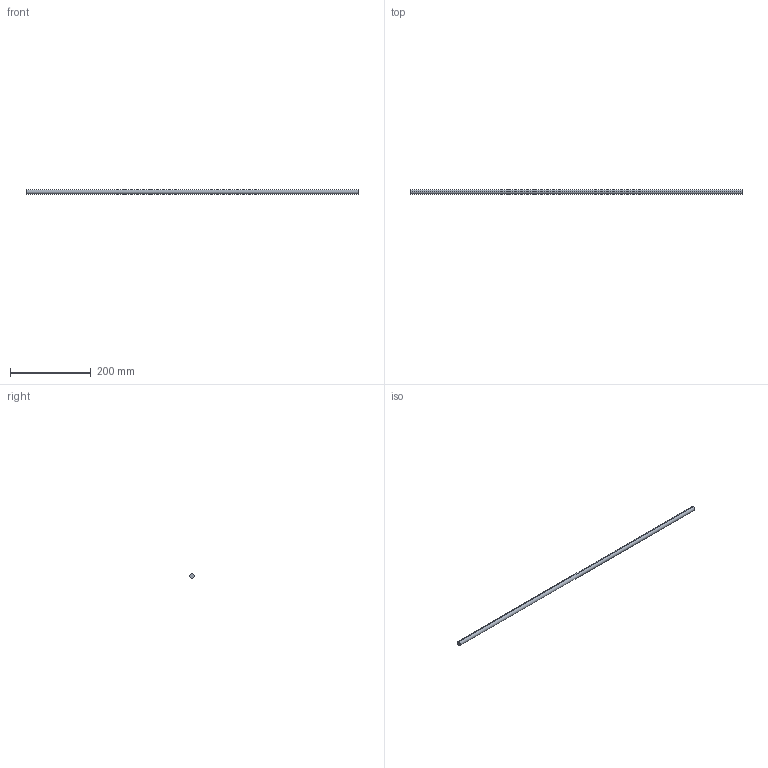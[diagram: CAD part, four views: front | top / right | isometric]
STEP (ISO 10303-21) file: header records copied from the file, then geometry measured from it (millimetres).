
FILE_DESCRIPTION (( 'STEP AP214' ), '1' );
FILE_NAME ('Querreling_2S-Rel_7102_25mm-Halter_KAB-950.step', '2010-09-22T15:06:07', ( 'grass' ), ( '' ), 'SwSTEP 2.0', 'SolidWorks 2010', '' );
FILE_SCHEMA (( 'AUTOMOTIVE_DESIGN' ));
Length unit declared in the file: millimetre
Products named in the file (1): Querreling_2S-Rel_7102_25mm-Halter_KAB-950
Bounding box: 824 x 11 x 11 mm (x, y, z)
Volume: 78307.3 mm3; surface area: 28665.5 mm2
Topology: 1 solids, 1 shells, 4 faces, 6 edges, 4 vertices
Faces by surface type: cylinder 2, plane 2
Entity records: 128 total; most frequent: DIRECTION 20, CARTESIAN_POINT 15, ORIENTED_EDGE 12, AXIS2_PLACEMENT_3D 9, EDGE_CURVE 6, VERTEX_POINT 4, FACE_OUTER_BOUND 4, CIRCLE 4
